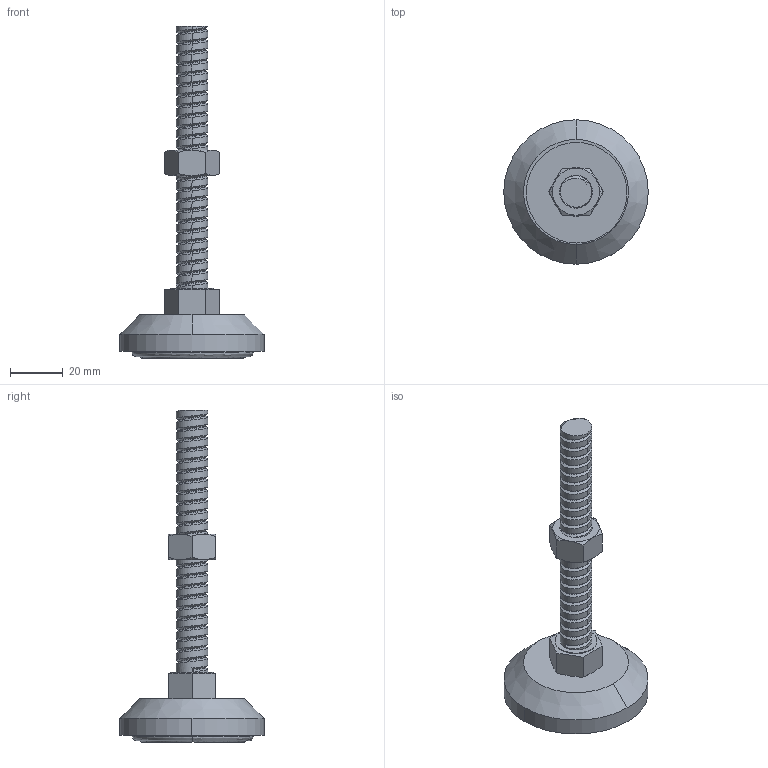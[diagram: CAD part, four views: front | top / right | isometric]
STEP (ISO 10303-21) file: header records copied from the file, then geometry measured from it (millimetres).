
FILE_DESCRIPTION (( 'STEP AP203' ), '1' );
FILE_NAME ('F-102-2-6012-100.STEP', '2015-11-24T02:20:56', ( '' ), ( '' ), 'SwSTEP 2.0', 'SolidWorks 2014', '' );
FILE_SCHEMA (( 'CONFIG_CONTROL_DESIGN' ));
Length unit declared in the file: millimetre
Products named in the file (5): M12X100L-10調整螺絲; 50橡膠墊-4; DK-08-50圓鐵蓋-M12-1; M12螺帽; F-102-2-6012-100
Assembly tree (4 placements, depth 2):
  F-102-2-6012-100
    M12X100L-10調整螺絲
    DK-08-50圓鐵蓋-M12-1
    50橡膠墊-4
    M12螺帽
Bounding box: 55 x 55 x 126.45 mm (x, y, z)
Volume: 50580.4 mm3; surface area: 20482.9 mm2
Topology: 4 solids, 4 shells, 184 faces, 446 edges, 283 vertices
Faces by surface type: cylinder 77, cone 42, plane 37, bspline 28
Entity records: 12810 total; most frequent: CARTESIAN_POINT 8516, ORIENTED_EDGE 892, DIRECTION 688, EDGE_CURVE 446, VERTEX_POINT 283, AXIS2_PLACEMENT_3D 269, EDGE_LOOP 201, ADVANCED_FACE 184
